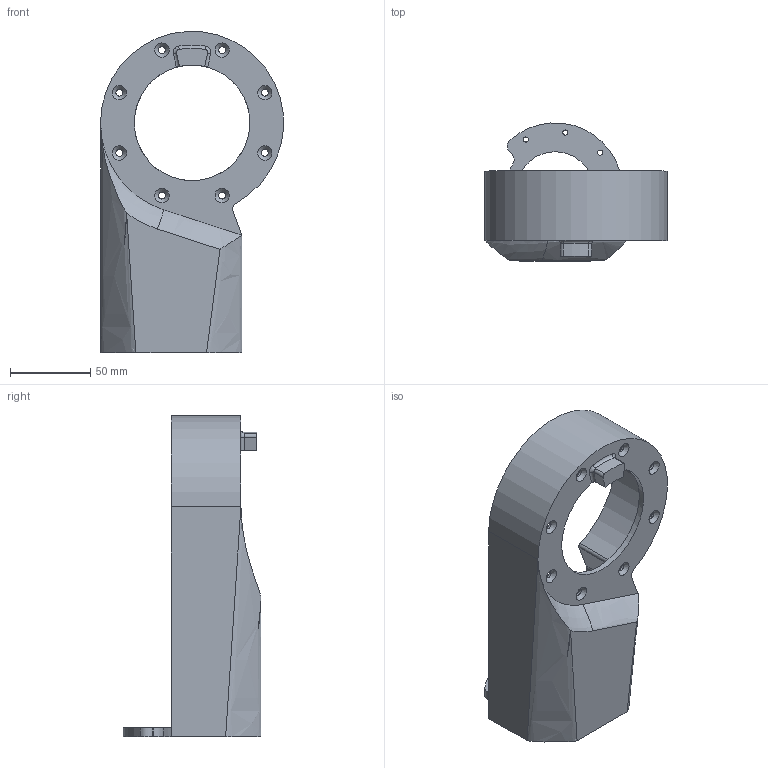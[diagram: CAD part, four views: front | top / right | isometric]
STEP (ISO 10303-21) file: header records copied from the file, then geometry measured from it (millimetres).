
FILE_DESCRIPTION(/* description */ ('STEP AP242 Edition 2','CAx-IF Rec.Pracs.---Representation and Presentation of Product Manufacturing Information (PMI)---4.0---2014-10-13','CAx-IF Rec.Pracs.---3D Tessellated Geometry---0.4---2014-09-14','2;1','CAx-IF Rec.Pracs.---User Defined Attributes---1.5---2016-08-15'),/* implementation_level */ '2;1');
FILE_NAME(/* name */ 'Assy_ForMFG - KD-C-201R_UpBicepDrive',/* time_stamp */ '2026-05-15T19:56:29Z',/* author */ (''),/* organization */ (''),/* preprocessor_version */ 'ST-DEVELOPER v20',/* originating_system */ 'ONSHAPE BY PTC INC, 1.215',/* authorisation */ ' ');
FILE_SCHEMA (('AP242_MANAGED_MODEL_BASED_3D_ENGINEERING_MIM_LF { 1 0 10303 442 3 1 4 }'));
Length unit declared in the file: metre
Products named in the file (1): KD-C-201R_UpBicepDrive
Bounding box: 113.9 x 85.9 x 199.92 mm (x, y, z)
Volume: 114122.3 mm3; surface area: 82327.8 mm2
Topology: 1 solids, 1 shells, 151 faces, 396 edges, 246 vertices
Faces by surface type: cylinder 66, plane 36, bspline 34, cone 10, torus 3, sphere 2
Full cylindrical faces by diameter (mm): 3.2 x7, 3.3 x2, 4.3 x8, 6.5 x7, 48 x1, 72 x1
Entity records: 7593 total; most frequent: CARTESIAN_POINT 4178, ORIENTED_EDGE 688, DIRECTION 651, EDGE_CURVE 344, AXIS2_PLACEMENT_3D 275, VERTEX_POINT 242, FACE_BOUND 232, EDGE_LOOP 230
